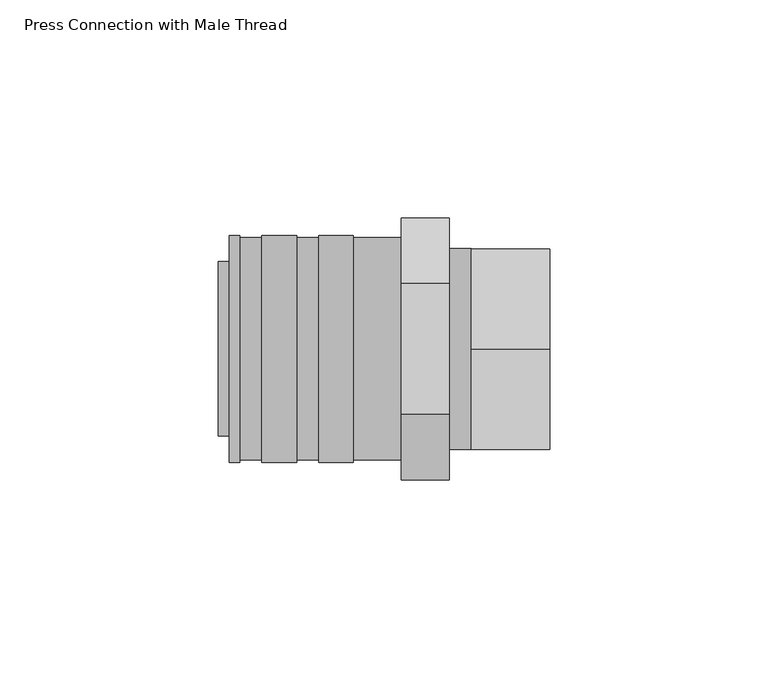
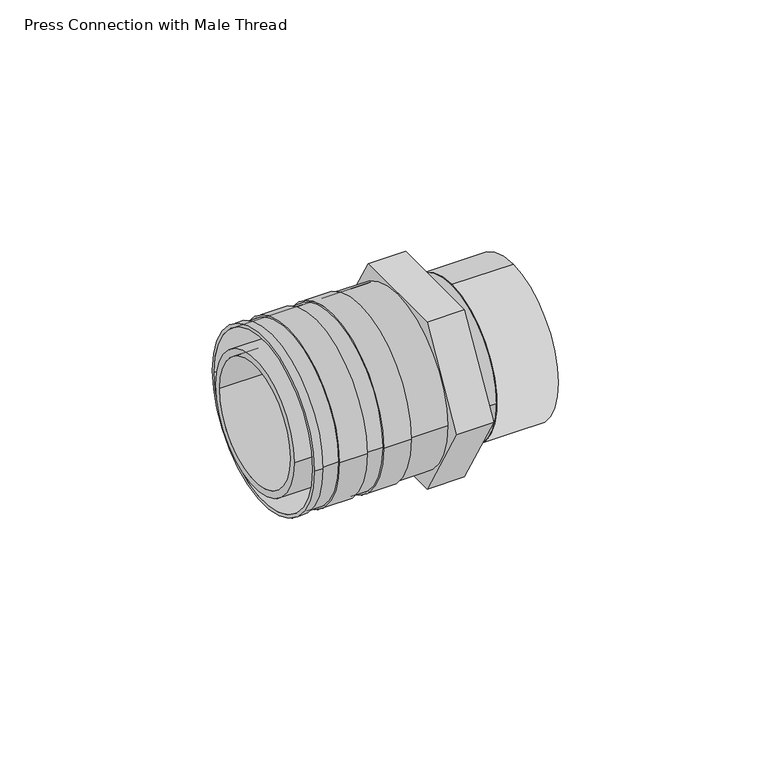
"""IFC4 building model written with IfcOpenShell, lengths in millimetres: pipe fitting geometry, Press Connection with Male Thread : Superpipe Press Connection - 50x1½” MT."""

from ifc_helpers import new_model, si_unit, point, frame, origin, origin_2d, place, context, project, spatial, polyline, circle_curve, trimmed, segment, composite_curve, outline, extrude, source, transform, mapped, element, save
from ifc_brep_helpers import plane_surface, cylinder_surface, revolved_surface, advanced_brep


def press_connection_with_male_thread_36fd35f1(model_context):
    return source(origin(), model_context, "Body", "SolidModel", [
        extrude(outline(composite_curve([segment(trimmed(circle_curve(origin_2d(), 23.0), [point((0.0, -23.0))], [point((0.0, 23.0))], False, "CARTESIAN"), True, "CONTINUOUS"), segment(trimmed(circle_curve(origin_2d(), 23.0), [point((0.0, 23.0))], [point((0.0, -23.0))], False, "CARTESIAN"), True, "CONTINUOUS")], self_intersect=False), holes=[composite_curve([segment(trimmed(circle_curve(origin_2d(), 19.0), [point((0.0, -19.0))], [point((0.0, 19.0))], True, "CARTESIAN"), True, "CONTINUOUS"), segment(trimmed(circle_curve(origin_2d(), 19.0), [point((0.0, 19.0))], [point((0.0, -19.0))], True, "CARTESIAN"), True, "CONTINUOUS")], self_intersect=False)]), frame((58.0, 0.0, 0.0), z_axis=(1.0, 0.0, 0.0), x_axis=(0.0, 1.0, 0.0)), (0.0, 0.0, 1.0), 18.0),
        advanced_brep(
        [(2.5, 26.0, 0.0), (2.5, -26.0, 0.0), (2.5, 25.0, 0.0), (2.5, -25.0, 0.0), (42.0, -25.5, 0.0), (42.0, 25.5, 0.0), (42.0, 25.0, 0.0), (42.0, -25.0, 0.0), (5.0, 26.0, 0.0), (5.0, -26.0, 0.0), (31.0, 26.0, 0.0), (31.0, -26.0, 0.0), (23.0, -26.0, 0.0), (23.0, 26.0, 0.0), (18.0, 26.0, 0.0), (18.0, -26.0, 0.0), (10.0, -26.0, 0.0), (10.0, 26.0, 0.0), (31.0, 25.5, 0.0), (31.0, -25.5, 0.0), (23.0, -25.5, 0.0), (23.0, 25.5, 0.0), (18.0, 25.5, 0.0), (18.0, -25.5, 0.0), (10.0, -25.5, 0.0), (10.0, 25.5, 0.0), (5.0, 25.5, 0.0), (5.0, -25.5, 0.0)],
        [
            (0, 1, circle_curve(frame((2.5, 0.0, 0.0), z_axis=(-1.0, 0.0, 0.0), x_axis=(0.0, -1.0, 0.0)), 26.0)),
            (1, 0, circle_curve(frame((2.5, 0.0, 0.0), z_axis=(-1.0, 0.0, 0.0), x_axis=(0.0, -1.0, 0.0)), 26.0)),
            (2, 3, circle_curve(frame((2.5, 0.0, 0.0), z_axis=(1.0, 0.0, 0.0), x_axis=(0.0, -1.0, 0.0)), 25.0)),
            (3, 2, circle_curve(frame((2.5, 0.0, 0.0), z_axis=(1.0, 0.0, 0.0), x_axis=(0.0, -1.0, 0.0)), 25.0)),
            (4, 5, circle_curve(frame((42.0, 0.0, 0.0), z_axis=(1.0, 0.0, 0.0), x_axis=(0.0, 1.0, 0.0)), 25.5)),
            (5, 4, circle_curve(frame((42.0, 0.0, 0.0), z_axis=(1.0, 0.0, 0.0), x_axis=(0.0, 1.0, 0.0)), 25.5)),
            (6, 7, circle_curve(frame((42.0, 0.0, 0.0), z_axis=(-1.0, 0.0, 0.0), x_axis=(0.0, -1.0, 0.0)), 25.0)),
            (7, 6, circle_curve(frame((42.0, 0.0, 0.0), z_axis=(-1.0, 0.0, 0.0), x_axis=(0.0, -1.0, 0.0)), 25.0)),
            (0, 8),
            (8, 9, circle_curve(frame((5.0, 0.0, 0.0), z_axis=(-1.0, 0.0, 0.0), x_axis=(0.0, -1.0, 0.0)), 26.0)),
            (9, 1),
            (10, 11, circle_curve(frame((31.0, 0.0, 0.0), z_axis=(-1.0, 0.0, 0.0), x_axis=(0.0, -1.0, 0.0)), 26.0)),
            (11, 12),
            (12, 13, circle_curve(frame((23.0, 0.0, 0.0), z_axis=(1.0, 0.0, 0.0), x_axis=(0.0, -1.0, 0.0)), 26.0)),
            (13, 10),
            (14, 15, circle_curve(frame((18.0, 0.0, 0.0), z_axis=(-1.0, 0.0, 0.0), x_axis=(0.0, -1.0, 0.0)), 26.0)),
            (15, 16),
            (16, 17, circle_curve(frame((10.0, 0.0, 0.0), z_axis=(1.0, 0.0, 0.0), x_axis=(0.0, -1.0, 0.0)), 26.0)),
            (17, 14),
            (9, 8, circle_curve(frame((5.0, 0.0, 0.0), z_axis=(-1.0, 0.0, 0.0), x_axis=(0.0, -1.0, 0.0)), 26.0)),
            (11, 10, circle_curve(frame((31.0, 0.0, 0.0), z_axis=(-1.0, 0.0, 0.0), x_axis=(0.0, -1.0, 0.0)), 26.0)),
            (13, 12, circle_curve(frame((23.0, 0.0, 0.0), z_axis=(1.0, 0.0, 0.0), x_axis=(0.0, -1.0, 0.0)), 26.0)),
            (15, 14, circle_curve(frame((18.0, 0.0, 0.0), z_axis=(-1.0, 0.0, 0.0), x_axis=(0.0, -1.0, 0.0)), 26.0)),
            (17, 16, circle_curve(frame((10.0, 0.0, 0.0), z_axis=(1.0, 0.0, 0.0), x_axis=(0.0, -1.0, 0.0)), 26.0)),
            (2, 6),
            (7, 3),
            (18, 19, circle_curve(frame((31.0, 0.0, 0.0), z_axis=(-1.0, 0.0, 0.0), x_axis=(0.0, 1.0, 0.0)), 25.5)),
            (19, 11),
            (10, 18),
            (19, 18, circle_curve(frame((31.0, 0.0, 0.0), z_axis=(-1.0, 0.0, 0.0), x_axis=(0.0, 1.0, 0.0)), 25.5)),
            (18, 5),
            (4, 19),
            (20, 21, circle_curve(frame((23.0, 0.0, 0.0), z_axis=(1.0, 0.0, 0.0), x_axis=(0.0, 1.0, 0.0)), 25.5)),
            (21, 13),
            (12, 20),
            (21, 20, circle_curve(frame((23.0, 0.0, 0.0), z_axis=(1.0, 0.0, 0.0), x_axis=(0.0, 1.0, 0.0)), 25.5)),
            (22, 23, circle_curve(frame((18.0, 0.0, 0.0), z_axis=(-1.0, 0.0, 0.0), x_axis=(0.0, 1.0, 0.0)), 25.5)),
            (23, 15),
            (14, 22),
            (23, 22, circle_curve(frame((18.0, 0.0, 0.0), z_axis=(-1.0, 0.0, 0.0), x_axis=(0.0, 1.0, 0.0)), 25.5)),
            (20, 23),
            (22, 21),
            (24, 25, circle_curve(frame((10.0, 0.0, 0.0), z_axis=(1.0, 0.0, 0.0), x_axis=(0.0, 1.0, 0.0)), 25.5)),
            (25, 17),
            (16, 24),
            (25, 24, circle_curve(frame((10.0, 0.0, 0.0), z_axis=(1.0, 0.0, 0.0), x_axis=(0.0, 1.0, 0.0)), 25.5)),
            (26, 27, circle_curve(frame((5.0, 0.0, 0.0), z_axis=(-1.0, 0.0, 0.0), x_axis=(0.0, 1.0, 0.0)), 25.5)),
            (27, 9),
            (8, 26),
            (27, 26, circle_curve(frame((5.0, 0.0, 0.0), z_axis=(-1.0, 0.0, 0.0), x_axis=(0.0, 1.0, 0.0)), 25.5)),
            (24, 27),
            (26, 25),
        ],
        [
            plane_surface(frame((2.5, -26.0, 0.0), z_axis=(-1.0, 0.0, 0.0), x_axis=(0.0, 0.0, 1.0))),
            plane_surface(frame((42.0, -26.0, 0.0), z_axis=(1.0, 0.0, 0.0), x_axis=(0.0, 0.0, -1.0))),
            cylinder_surface(frame((42.0, 0.0, 0.0), z_axis=(-1.0, 0.0, 0.0), x_axis=(0.0, -1.0, 0.0)), 26.0),
            revolved_surface(polyline([(42.0, -25.0, 0.0), (2.5, -25.0, 0.0)]), (42.0, 0.0, 0.0), (1.0, 0.0, 0.0)),
            plane_surface(frame((31.0, 0.0, 0.0), z_axis=(1.0, 0.0, 0.0), x_axis=(0.0, 1.0, 0.0))),
            cylinder_surface(frame((2014.0, 0.0, 0.0), z_axis=(-1.0, 0.0, 0.0), x_axis=(0.0, 1.0, 0.0)), 25.5),
            plane_surface(frame((23.0, 0.0, 0.0), z_axis=(-1.0, 0.0, 0.0), x_axis=(0.0, 1.0, 0.0))),
            plane_surface(frame((18.0, 0.0, 0.0), z_axis=(1.0, 0.0, 0.0), x_axis=(0.0, 1.0, 0.0))),
            plane_surface(frame((10.0, 0.0, 0.0), z_axis=(-1.0, 0.0, 0.0), x_axis=(0.0, 1.0, 0.0))),
            plane_surface(frame((5.0, 0.0, 0.0), z_axis=(1.0, 0.0, 0.0), x_axis=(0.0, 1.0, 0.0))),
        ],
        [
            (0, [[1, 2], [3, 4]]),
            (1, [[5, 6], [7, 8]]),
            (2, [[-1, 9, 10, 11]]),
            (2, [[12, 13, 14, 15]]),
            (2, [[16, 17, 18, 19]]),
            (2, [[-2, -11, 20, -9]]),
            (2, [[21, -15, 22, -13]]),
            (2, [[23, -19, 24, -17]]),
            (3, [[-3, 25, -8, 26]]),
            (3, [[-4, -26, -7, -25]]),
            (4, [[27, 28, -12, 29]]),
            (4, [[30, -29, -21, -28]]),
            (5, [[-27, 31, -5, 32]]),
            (5, [[-30, -32, -6, -31]]),
            (6, [[33, 34, -14, 35]]),
            (6, [[36, -35, -22, -34]]),
            (7, [[37, 38, -16, 39]]),
            (7, [[40, -39, -23, -38]]),
            (5, [[-33, 41, -37, 42]]),
            (5, [[-36, -42, -40, -41]]),
            (8, [[43, 44, -18, 45]]),
            (8, [[46, -45, -24, -44]]),
            (9, [[47, 48, -10, 49]]),
            (9, [[50, -49, -20, -48]]),
            (5, [[-43, 51, -47, 52]]),
            (5, [[-46, -52, -50, -51]]),
        ],
    ),
        extrude(outline(composite_curve([segment(trimmed(circle_curve(origin_2d(), 23.0), [point((-23.0, 0.0))], [point((23.0, 0.0))], False, "CARTESIAN"), True, "CONTINUOUS"), segment(trimmed(circle_curve(origin_2d(), 23.0), [point((23.0, 0.0))], [point((-23.0, 0.0))], False, "CARTESIAN"), True, "CONTINUOUS")], self_intersect=False), holes=[composite_curve([segment(trimmed(circle_curve(origin_2d(), 19.0), [point((-19.0, 0.0))], [point((19.0, 0.0))], True, "CARTESIAN"), True, "CONTINUOUS"), segment(trimmed(circle_curve(origin_2d(), 19.0), [point((19.0, 0.0))], [point((-19.0, 0.0))], True, "CARTESIAN"), True, "CONTINUOUS")], self_intersect=False)]), frame((53.0, 0.0, 0.0), z_axis=(1.0, 0.0, 0.0), x_axis=(0.0, 1.0, 0.0)), (0.0, 0.0, 1.0), 5.0),
        extrude(outline(polyline([(-30.022214, 0.0), (-15.011107, 26.0), (15.011107, 26.0), (30.022214, 0.0), (15.011107, -26.0), (-15.011107, -26.0), (-30.022214, 0.0)]), holes=[composite_curve([segment(trimmed(circle_curve(origin_2d(), 18.0), [point((18.0, 0.0))], [point((-18.0, 0.0))], True, "CARTESIAN"), True, "CONTINUOUS"), segment(trimmed(circle_curve(origin_2d(), 18.0), [point((-18.0, 0.0))], [point((18.0, 0.0))], True, "CARTESIAN"), True, "CONTINUOUS")], self_intersect=False)]), frame((42.0, 0.0, 0.0), z_axis=(1.0, 0.0, 0.0), x_axis=(0.0, 1.0, 0.0)), (0.0, 0.0, 1.0), 11.0),
        extrude(outline(composite_curve([segment(trimmed(circle_curve(origin_2d(), 20.0), [point((-20.0, 0.0))], [point((20.0, 0.0))], False, "CARTESIAN"), True, "CONTINUOUS"), segment(trimmed(circle_curve(origin_2d(), 20.0), [point((20.0, 0.0))], [point((-20.0, 0.0))], False, "CARTESIAN"), True, "CONTINUOUS")], self_intersect=False), holes=[composite_curve([segment(trimmed(circle_curve(origin_2d(), 18.0), [point((18.0, 0.0))], [point((-18.0, 0.0))], True, "CARTESIAN"), True, "CONTINUOUS"), segment(trimmed(circle_curve(origin_2d(), 18.0), [point((-18.0, 0.0))], [point((18.0, 0.0))], True, "CARTESIAN"), True, "CONTINUOUS")], self_intersect=False)]), frame((0.0, 0.0, 0.0), z_axis=(1.0, 0.0, 0.0), x_axis=(0.0, 1.0, 0.0)), (0.0, 0.0, 1.0), 42.0),
    ])


if __name__ == "__main__":
    model = new_model("IFC4")
    model_context = context("Model", 3, world=origin())
    ifc_project = project(units=[si_unit("LENGTHUNIT", "METRE", prefix="MILLI")], contexts=[model_context])
    site = spatial("IfcSite", under=ifc_project)
    building = spatial("IfcBuilding", under=site)
    placement = place(None, origin())
    press_connection_with_male_thread_shape = press_connection_with_male_thread_36fd35f1(model_context)
    element("IfcPipeFitting", 1, ObjectType="Press Connection with Male Thread : Superpipe Press Connection - 50x1½” MT", at=placement, inside=building, context=model_context, shape_type="MappedRepresentation", body=[
        mapped(press_connection_with_male_thread_shape, transform((0.0, 0.0, 0.0), x_axis=(1.0, 0.0, 0.0), y_axis=(0.0, 1.0, 0.0), z_axis=(0.0, 0.0, 1.0))),
    ])
    save(model, "model.ifc")
